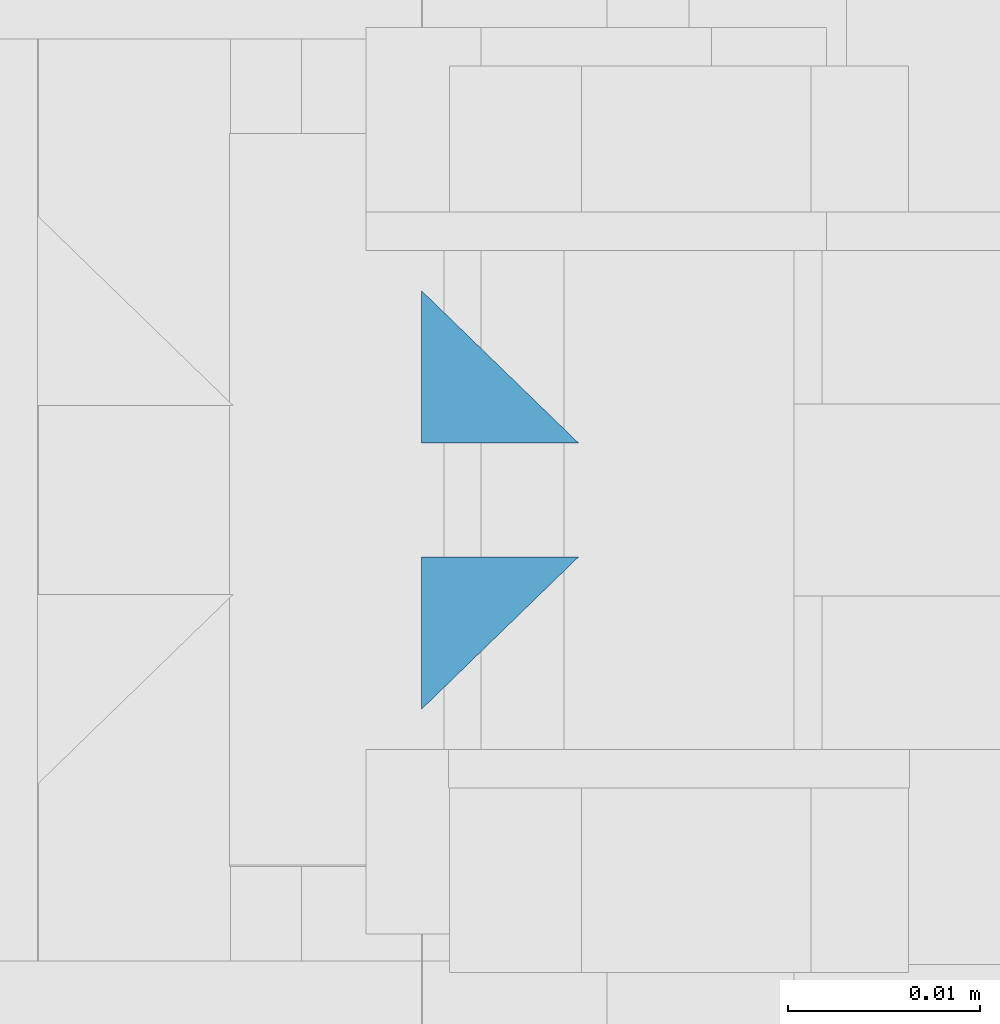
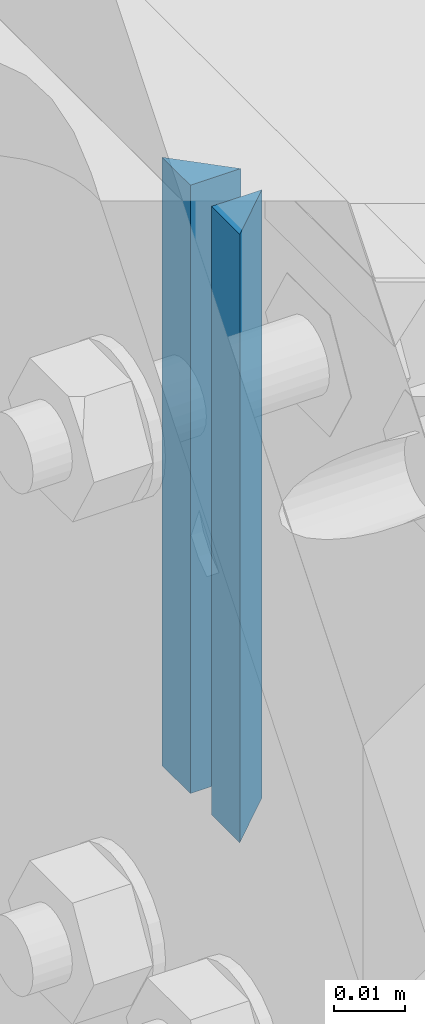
# One storey, part 47 of 251: 4 fasteners.
"""IFC4 building model written with IfcOpenShell, lengths in metres."""

from ifc_helpers import new_model, si_unit, frame, origin_with_axes, place, context, project, spatial, polyline, outline, extrude, type_object, element, save


model = new_model("IFC4")

# Units and contexts
model_context = context("Model", 3, precision=1e-05, world=origin_with_axes())
ifc_project = project(units=[si_unit("LENGTHUNIT", "METRE"), si_unit("AREAUNIT", "SQUARE_METRE"), si_unit("VOLUMEUNIT", "CUBIC_METRE"), si_unit("MASSUNIT", "GRAM", prefix="KILO"), si_unit("TIMEUNIT", "SECOND"), si_unit("PLANEANGLEUNIT", "RADIAN"), si_unit("SOLIDANGLEUNIT", "STERADIAN"), si_unit("THERMODYNAMICTEMPERATUREUNIT", "DEGREE_CELSIUS")], contexts=[model_context])

# Site, building, storey
placement_1 = place(None, origin_with_axes())
site = spatial("IfcSite", under=ifc_project, at=placement_1, Name="Italia", CompositionType="ELEMENT")
building = spatial("IfcBuilding", under=site, at=placement_1, Name="Deposito", CompositionType="ELEMENT")
storey = spatial("IfcBuildingStorey", under=building, at=placement_1, Name="Storey 0", CompositionType="ELEMENT", Elevation=0.0)

# Fasteners
fastener_type_1 = type_object("IfcFastenerType", Name="Collegamenti -051_7075 -053_7076", PredefinedType="WELD")
placement_2 = place(placement_1, origin_with_axes())
fastener_1_placement = place(placement_2, origin_with_axes())
element("IfcFastener", 1, at=fastener_1_placement, inside=storey, type_object=fastener_type_1, Name="Collegamenti -051_7075 -053_7076", context=model_context, shape_type="SweptSolid", body=[
    extrude(outline(polyline([(0.0, 0.0), (-0.00792694, -0.00817347), (-0.00792694, 0.0), (0.0, 0.0)])), frame((6.16495, 20.0109, 4.37195), z_axis=(0.0, 0.0, 1.0), x_axis=(0.0, 1.0, 0.0)), (0.0, 0.0, 1.0), 0.1041),
])
fastener_type_2 = type_object("IfcFastenerType", Name="Collegamenti -051_7075 -053_7076", PredefinedType="WELD")
fastener_2_placement = place(placement_2, origin_with_axes())
element("IfcFastener", 2, at=fastener_2_placement, inside=storey, type_object=fastener_type_2, Name="Collegamenti -051_7075 -053_7076", context=model_context, shape_type="SweptSolid", body=[
    extrude(outline(polyline([(0.0, 0.0), (0.00792694, 0.00817347), (0.00792694, 0.0), (0.0, 0.0)])), frame((6.16495, 19.9891, 4.47605), z_axis=(0.0, 0.0, -1.0), x_axis=(0.0, 1.0, 0.0)), (0.0, 0.0, 1.0), 0.1041),
])
fastener_type_3 = type_object("IfcFastenerType", Name="Collegamenti -051_7075 -053_7076", PredefinedType="WELD")
fastener_3_placement = place(placement_2, origin_with_axes())
element("IfcFastener", 3, at=fastener_3_placement, inside=storey, type_object=fastener_type_3, Name="Collegamenti -051_7075 -053_7076", context=model_context, shape_type="SweptSolid", body=[
    extrude(outline(polyline([(0.0, 0.0), (-0.00792694, -0.00817347), (-0.00792694, 0.0), (0.0, 0.0)])), frame((6.16495, 20.0109, 4.37195), z_axis=(0.0, 0.0, 1.0), x_axis=(0.0, 1.0, 0.0)), (0.0, 0.0, 1.0), 0.1041),
])
fastener_type_4 = type_object("IfcFastenerType", Name="Collegamenti -051_7075 -053_7076", PredefinedType="WELD")
fastener_4_placement = place(placement_2, origin_with_axes())
element("IfcFastener", 4, at=fastener_4_placement, inside=storey, type_object=fastener_type_4, Name="Collegamenti -051_7075 -053_7076", context=model_context, shape_type="SweptSolid", body=[
    extrude(outline(polyline([(0.0, 0.0), (0.00792694, 0.00817347), (0.00792694, 0.0), (0.0, 0.0)])), frame((6.16495, 19.9891, 4.47605), z_axis=(0.0, 0.0, -1.0), x_axis=(0.0, 1.0, 0.0)), (0.0, 0.0, 1.0), 0.1041),
])

save(model, "model.ifc")
